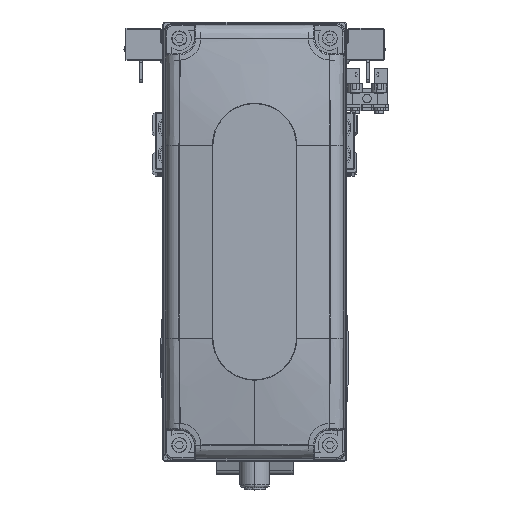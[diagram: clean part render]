
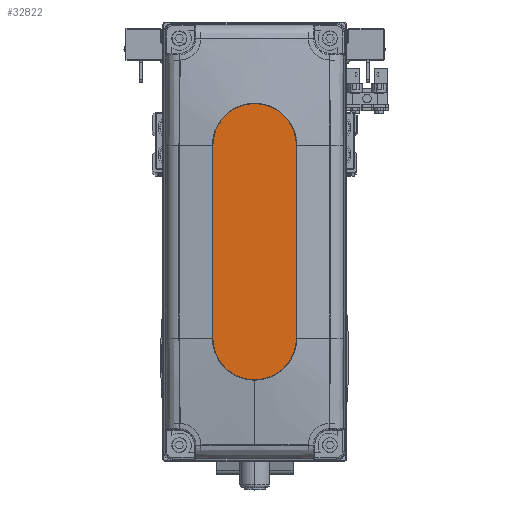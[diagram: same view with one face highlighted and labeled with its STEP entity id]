
A CAD part, top view. The second image highlights one B-rep face of the part: STEP entity #32822.
In plain terms, the highlighted planar face has unit normal (0, 0, 1).
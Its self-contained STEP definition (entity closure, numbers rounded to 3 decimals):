
#1794 = CARTESIAN_POINT ( 'NONE',  ( 32., -14., 35. ) ) ;
#3913 = AXIS2_PLACEMENT_3D ( 'NONE', #6540, #20661, #34804 ) ;
#4317 = EDGE_CURVE ( 'NONE', #10829, #8745, #13090, .T. ) ;
#5025 = AXIS2_PLACEMENT_3D ( 'NONE', #40502, #8759, #22886 ) ;
#5189 = ORIENTED_EDGE ( 'NONE', *, *, #4317, .T. ) ;
#5406 = CARTESIAN_POINT ( 'NONE',  ( 32., 0., 35. ) ) ;
#6540 = CARTESIAN_POINT ( 'NONE',  ( 0., 0., 35. ) ) ;
#8745 = VERTEX_POINT ( 'NONE', #26501 ) ;
#8759 = DIRECTION ( 'NONE',  ( 0., 0., 1. ) ) ;
#10829 = VERTEX_POINT ( 'NONE', #37853 ) ;
#12372 = LINE ( 'NONE', #26500, #18791 ) ;
#13090 = LINE ( 'NONE', #27227, #35350 ) ;
#15576 = CIRCLE ( 'NONE', #41493, 14. ) ;
#15911 = EDGE_CURVE ( 'NONE', #42013, #17175, #12372, .T. ) ;
#16007 = CARTESIAN_POINT ( 'NONE',  ( -32., 0., 35. ) ) ;
#17175 = VERTEX_POINT ( 'NONE', #1794 ) ;
#17991 = EDGE_CURVE ( 'NONE', #17175, #42092, #24992, .T. ) ;
#18791 = VECTOR ( 'NONE', #40635, 1000. ) ;
#19520 = DIRECTION ( 'NONE',  ( 0., 0., 1. ) ) ;
#20661 = DIRECTION ( 'NONE',  ( 0., 0., 1. ) ) ;
#21401 = AXIS2_PLACEMENT_3D ( 'NONE', #5406, #19520, #33655 ) ;
#22217 = CARTESIAN_POINT ( 'NONE',  ( 46., 0., 35. ) ) ;
#22886 = DIRECTION ( 'NONE',  ( 1., 0., 0. ) ) ;
#23721 = ORIENTED_EDGE ( 'NONE', *, *, #41850, .T. ) ;
#24154 = FACE_OUTER_BOUND ( 'NONE', #27223, .T. ) ;
#24992 = CIRCLE ( 'NONE', #5025, 14. ) ;
#26500 = CARTESIAN_POINT ( 'NONE',  ( -32., -14., 35. ) ) ;
#26501 = CARTESIAN_POINT ( 'NONE',  ( -32., 14., 35. ) ) ;
#27223 = EDGE_LOOP ( 'NONE', ( #5189, #23721, #42238, #38950, #34574 ) ) ;
#27227 = CARTESIAN_POINT ( 'NONE',  ( -32., 14., 35. ) ) ;
#30136 = DIRECTION ( 'NONE',  ( 0., 0., 1. ) ) ;
#32822 = ADVANCED_FACE ( 'NONE', ( #24154 ), #38272, .T. ) ;
#33655 = DIRECTION ( 'NONE',  ( 1., 0., 0. ) ) ;
#34574 = ORIENTED_EDGE ( 'NONE', *, *, #40342, .T. ) ;
#34804 = DIRECTION ( 'NONE',  ( 1., 0., 0. ) ) ;
#35350 = VECTOR ( 'NONE', #41360, 1000. ) ;
#37853 = CARTESIAN_POINT ( 'NONE',  ( 32., 14., 35. ) ) ;
#38272 = PLANE ( 'NONE',  #3913 ) ;
#38950 = ORIENTED_EDGE ( 'NONE', *, *, #17991, .T. ) ;
#40342 = EDGE_CURVE ( 'NONE', #42092, #10829, #41393, .T. ) ;
#40502 = CARTESIAN_POINT ( 'NONE',  ( 32., 0., 35. ) ) ;
#40635 = DIRECTION ( 'NONE',  ( 1., 0., 0. ) ) ;
#41360 = DIRECTION ( 'NONE',  ( -1., 0., 0. ) ) ;
#41393 = CIRCLE ( 'NONE', #21401, 14. ) ;
#41493 = AXIS2_PLACEMENT_3D ( 'NONE', #16007, #30136, #44276 ) ;
#41850 = EDGE_CURVE ( 'NONE', #8745, #42013, #15576, .T. ) ;
#42013 = VERTEX_POINT ( 'NONE', #42396 ) ;
#42092 = VERTEX_POINT ( 'NONE', #22217 ) ;
#42238 = ORIENTED_EDGE ( 'NONE', *, *, #15911, .T. ) ;
#42396 = CARTESIAN_POINT ( 'NONE',  ( -32., -14., 35. ) ) ;
#44276 = DIRECTION ( 'NONE',  ( 1., 0., 0. ) ) ;
